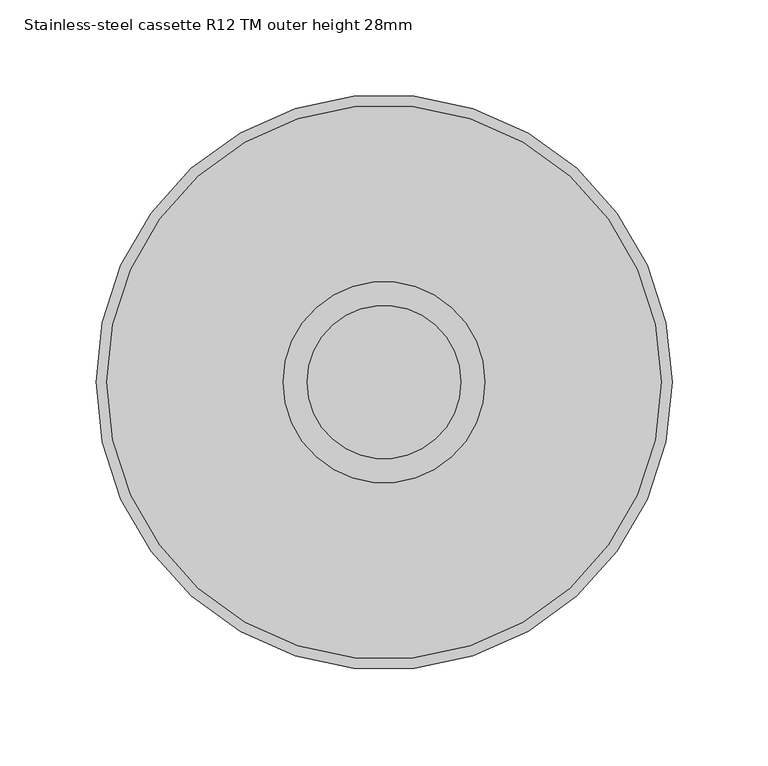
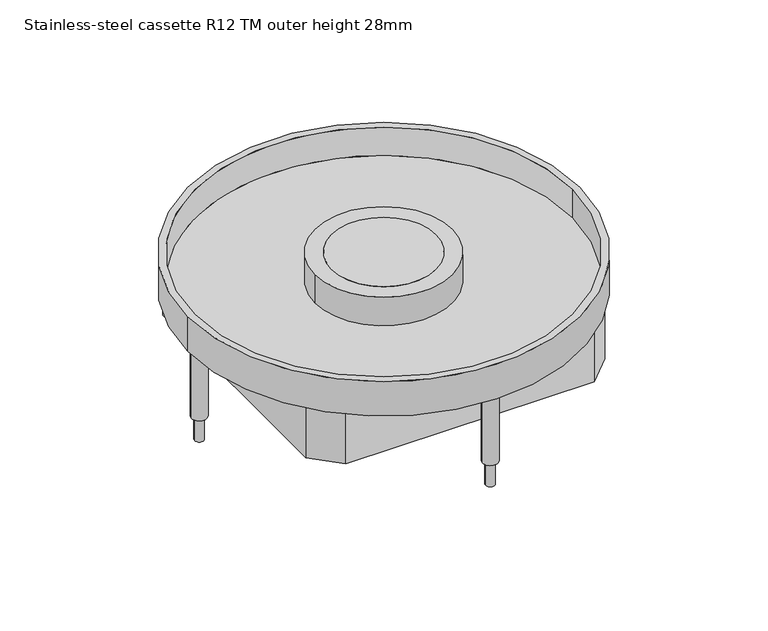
"""IFC4 building model written with IfcOpenShell, lengths in millimetres: proxy geometry, Electrical_Installation_Hager_VE-EE_EKR-Height-adjustable-stainless-steel-cassette-with-tube-mounting-set-round-for-damp-cleaned-floors : Stainless-steel cassette R12 TM outer height 28mm."""

import ifcopenshell
import ifcopenshell.guid

model = None  # the IFC model being written
_history = None  # IfcOwnerHistory: only IFC2X3 demands one
_inside = {}  # id of a spatial element -> (the spatial element, [elements in it])
_under = {}  # id of a project, library or spatial element -> (it, [spatial elements below it])
_declared = {}  # id of a project -> (the project, [libraries it declares])
_typed = {}  # id of a type object -> (the type object, [elements of that type])
_made_of = {}  # id of a material, layer set ... -> (it, [elements and type objects made of it])


def new_model(schema):
    """Start an empty IFC model of exactly this schema.

    Asked for "IFC4X3", IfcOpenShell would pick the latest addendum, in which some entities
    have other attributes; the version numbers below select the first issue.
    IFC2X3 requires an IfcOwnerHistory on every rooted entity: one is made here for all.
    """
    global model, _history
    if schema == "IFC4X3":
        model = ifcopenshell.file(schema_version=(4, 3, 0, 0))
    else:
        model = ifcopenshell.file(schema=schema)
    _inside.clear()
    _under.clear()
    _declared.clear()
    _typed.clear()
    _made_of.clear()
    _history = None
    if model.schema == "IFC2X3":
        org = make("IfcOrganization", Name="unknown")
        user = make(
            "IfcPersonAndOrganization",
            ThePerson=make("IfcPerson", FamilyName="unknown"),
            TheOrganization=org,
        )
        app = make(
            "IfcApplication",
            ApplicationDeveloper=org,
            Version="unknown",
            ApplicationFullName="unknown",
            ApplicationIdentifier="unknown",
        )
        _history = make(
            "IfcOwnerHistory",
            OwningUser=user,
            OwningApplication=app,
            ChangeAction="ADDED",
            CreationDate=0,
        )
    return model


def make(cls, **values):
    """One entity of the class cls with the attributes given. An attribute that is None is left unset."""
    return model.create_entity(
        cls, **{name: value for name, value in values.items() if value is not None}
    )


def rooted(cls, **values):
    """An entity with a GlobalId (a new one), such as an element, a storey or a relation."""
    return make(cls, GlobalId=ifcopenshell.guid.new(), OwnerHistory=_history, **values)


def si_unit(unit_type, name, prefix=None):
    """IfcSIUnit, for example si_unit("LENGTHUNIT", "METRE", prefix="MILLI")."""
    return make("IfcSIUnit", UnitType=unit_type, Prefix=prefix, Name=name)


def assignment(units):
    """IfcUnitAssignment: the units of a project."""
    return None if units is None else make("IfcUnitAssignment", Units=units)


def point(xyz):
    """IfcCartesianPoint."""
    return None if xyz is None else make("IfcCartesianPoint", Coordinates=xyz)


def direction(xyz):
    """IfcDirection."""
    return None if xyz is None else make("IfcDirection", DirectionRatios=xyz)


def frame(location, z_axis=None, x_axis=None):
    """IfcAxis2Placement3D, a coordinate frame: its origin and axes. An axis left out is left unset."""
    return make(
        "IfcAxis2Placement3D",
        Location=point(location),
        Axis=direction(z_axis),
        RefDirection=direction(x_axis),
    )


def frame_2d(location, x_axis=None):
    """IfcAxis2Placement2D, a coordinate frame in the plane: its origin and x axis."""
    return make(
        "IfcAxis2Placement2D", Location=point(location), RefDirection=direction(x_axis)
    )


def origin():
    """The frame at (0, 0, 0) with its axes left unset."""
    return frame((0.0, 0.0, 0.0))


def origin_with_axes():
    """The frame at (0, 0, 0) with the z axis (0, 0, 1) and the x axis (1, 0, 0) written out."""
    return frame((0.0, 0.0, 0.0), z_axis=(0.0, 0.0, 1.0), x_axis=(1.0, 0.0, 0.0))


def origin_2d():
    """The frame at (0, 0) in the plane with its x axis left unset."""
    return frame_2d((0.0, 0.0))


def place(relative_to, where):
    """IfcLocalPlacement: puts the frame where relative to a parent placement (None: the world)."""
    return make(
        "IfcLocalPlacement", PlacementRelTo=relative_to, RelativePlacement=where
    )


def context(
    kind, dimensions, precision=None, world=None, true_north=None, identifier=None
):
    """IfcGeometricRepresentationContext, for example the 3D "Model" context."""
    return make(
        "IfcGeometricRepresentationContext",
        ContextIdentifier=identifier,
        ContextType=kind,
        CoordinateSpaceDimension=dimensions,
        Precision=precision,
        WorldCoordinateSystem=world,
        TrueNorth=true_north,
    )


def project(units=None, contexts=None):
    """IfcProject with its units and contexts."""
    return rooted(
        "IfcProject",
        Name="project",
        RepresentationContexts=contexts,
        UnitsInContext=assignment(units),
    )


def spatial(cls, under=None, at=None, **own):
    """A site, building, storey or space (cls), placed at a placement, below another one or the project."""
    s = rooted(cls, ObjectPlacement=at, **own)
    if under is not None:
        _under.setdefault(under.id(), (under, []))[1].append(s)
    return s


def polyline(points):
    """IfcPolyline through the points."""
    return make("IfcPolyline", Points=[point(p) for p in points])


def circle_curve(where, radius):
    """IfcCircle in the frame where."""
    return make("IfcCircle", Position=where, Radius=radius)


def trimmed(basis, trim1, trim2, sense, master):
    """IfcTrimmedCurve: the piece of a basis curve between two trims."""
    return make(
        "IfcTrimmedCurve",
        BasisCurve=basis,
        Trim1=trim1,
        Trim2=trim2,
        SenseAgreement=sense,
        MasterRepresentation=master,
    )


def segment(curve, same_sense, transition):
    """IfcCompositeCurveSegment."""
    return make(
        "IfcCompositeCurveSegment",
        Transition=transition,
        SameSense=same_sense,
        ParentCurve=curve,
    )


def composite_curve(segments, self_intersect=None):
    """IfcCompositeCurve: segments joined end to end."""
    return make("IfcCompositeCurve", Segments=segments, SelfIntersect=self_intersect)


def outline(outer, holes=None, kind="AREA"):
    """IfcArbitraryClosedProfileDef: a profile drawn as a closed curve; with holes, ...WithVoids."""
    if holes is None:
        return make("IfcArbitraryClosedProfileDef", ProfileType=kind, OuterCurve=outer)
    return make(
        "IfcArbitraryProfileDefWithVoids",
        ProfileType=kind,
        OuterCurve=outer,
        InnerCurves=holes,
    )


def extrude(swept, where, along, depth):
    """IfcExtrudedAreaSolid: the profile swept, set in the frame where, extruded along a direction by depth."""
    return make(
        "IfcExtrudedAreaSolid",
        SweptArea=swept,
        Position=where,
        ExtrudedDirection=direction(along),
        Depth=depth,
    )


def shape(context_of_items, identifier, shape_type, items):
    """IfcShapeRepresentation: the items that make up one representation, for example the "Body"."""
    return make(
        "IfcShapeRepresentation",
        ContextOfItems=context_of_items,
        RepresentationIdentifier=identifier,
        RepresentationType=shape_type,
        Items=items,
    )


def source(mapping_origin, context_of_items, identifier, shape_type, items):
    """IfcRepresentationMap: a shape defined once, which mapped items show again and again."""
    return make(
        "IfcRepresentationMap",
        MappingOrigin=mapping_origin,
        MappedRepresentation=shape(context_of_items, identifier, shape_type, items),
    )


def transform(
    local_origin,
    x_axis=None,
    y_axis=None,
    z_axis=None,
    scale=None,
    scale2=None,
    scale3=None,
    uniform=True,
):
    """IfcCartesianTransformationOperator3D, or its non-uniform kind. x_axis, y_axis, z_axis: its Axis1, 2, 3."""
    if uniform:
        return make(
            "IfcCartesianTransformationOperator3D",
            Axis1=direction(x_axis),
            Axis2=direction(y_axis),
            LocalOrigin=point(local_origin),
            Scale=scale,
            Axis3=direction(z_axis),
        )
    return make(
        "IfcCartesianTransformationOperator3DnonUniform",
        Axis1=direction(x_axis),
        Axis2=direction(y_axis),
        LocalOrigin=point(local_origin),
        Scale=scale,
        Axis3=direction(z_axis),
        Scale2=scale2,
        Scale3=scale3,
    )


def mapped(mapping_source, mapping_target):
    """IfcMappedItem: shows the shape of a source again, moved by a transform."""
    return make(
        "IfcMappedItem", MappingSource=mapping_source, MappingTarget=mapping_target
    )


def made_of(thing, what):
    """Note that an element or type object is made of a material, layer set ...; save() writes the relation."""
    if what is not None:
        _made_of.setdefault(what.id(), (what, []))[1].append(thing)
    return thing


def element(
    cls,
    number,
    at=None,
    inside=None,
    cuts=None,
    type_object=None,
    material=None,
    context=None,
    identifier="Body",
    shape_type=None,
    held_by="IfcProductDefinitionShape",
    body=None,
    shapes=None,
    **own,
):
    """One element of the class cls, such as IfcWall. Its Tag is "e" and its number.

    at: its placement. inside: the storey or other place that contains it. cuts: it is an
    opening in that element (IfcRelVoidsElement). A single representation is given by context,
    identifier, shape_type and body (its items); several are given by shapes. held_by: the class
    of the entity that holds the representations. save() writes the other relations.
    """
    e = rooted(cls, Tag="e%d" % number, ObjectPlacement=at, **own)
    if body is not None:
        shapes = [shape(context, identifier, shape_type, body)]
    if shapes is not None:
        e.Representation = make(held_by, Representations=shapes)
    if inside is not None:
        _inside.setdefault(inside.id(), (inside, []))[1].append(e)
    if cuts is not None:
        rooted(
            "IfcRelVoidsElement", RelatingBuildingElement=cuts, RelatedOpeningElement=e
        )
    if type_object is not None:
        _typed.setdefault(type_object.id(), (type_object, []))[1].append(e)
    return made_of(e, material)


def aggregate(whole, parts):
    """IfcRelAggregates: a whole, such as a stair, and the parts it consists of."""
    return rooted("IfcRelAggregates", RelatingObject=whole, RelatedObjects=parts)


def save(model, path):
    """Write the relations noted so far, then the file.

    IfcRelAggregates (storeys below a building ...), IfcRelContainedInSpatialStructure (elements
    in a storey), IfcRelDefinesByType, IfcRelAssociatesMaterial and IfcRelDeclares: one each for
    every whole, place, type object, material and project.
    """
    for whole, parts in _under.values():
        aggregate(whole, parts)
    for where, things in _inside.values():
        rooted(
            "IfcRelContainedInSpatialStructure",
            RelatedElements=things,
            RelatingStructure=where,
        )
    for kind, things in _typed.values():
        rooted("IfcRelDefinesByType", RelatedObjects=things, RelatingType=kind)
    for what, things in _made_of.values():
        rooted("IfcRelAssociatesMaterial", RelatedObjects=things, RelatingMaterial=what)
    for by, libraries in _declared.values():
        rooted("IfcRelDeclares", RelatingContext=by, RelatedDefinitions=libraries)
    model.write(path)


def plane_surface(at):
    """IfcPlane: the flat surface through the origin of the frame at, square to its z axis."""
    return make("IfcPlane", Position=at)


def cylinder_surface(at, radius):
    """IfcCylindricalSurface: all points at the distance radius from the z axis of the frame at."""
    return make("IfcCylindricalSurface", Position=at, Radius=radius)


def revolved_surface(curve, axis_point, axis_direction):
    """IfcSurfaceOfRevolution: the curve turned about the line through axis_point along axis_direction."""
    return make(
        "IfcSurfaceOfRevolution",
        SweptCurve=make("IfcArbitraryOpenProfileDef", ProfileType="CURVE", Curve=curve),
        AxisPosition=make("IfcAxis1Placement", Location=point(axis_point), Axis=direction(axis_direction)),
    )


def advanced_brep(points, edges, surfaces, faces):
    """IfcAdvancedBrep: a solid bounded by faces that lie on surfaces and meet in shared edges.

    An edge is (start, end): straight between two places in points (the first is 0);
    or (start, end, curve); or (start, end, curve, False) where it runs against its curve.
    A face is (place in surfaces, loops), or (place, loops, False) where it looks against
    its surface's normal. A loop lists edges by number (the first is 1), with a minus sign
    where the edge is run from its end to its start. The first loop is the outer one.
    """
    corners = [point(p) for p in points]
    vertices = [make("IfcVertexPoint", VertexGeometry=c) for c in corners]
    made = []
    for start, end, *more in edges:
        made.append(
            make(
                "IfcEdgeCurve",
                EdgeStart=vertices[start],
                EdgeEnd=vertices[end],
                EdgeGeometry=more[0] if more else make("IfcPolyline", Points=[corners[start], corners[end]]),
                SameSense=more[1] if len(more) > 1 else True,
            )
        )
    hull = []
    for where, loops, *sense in faces:
        bounds = []
        for j, loop in enumerate(loops):
            ring = [make("IfcOrientedEdge", EdgeElement=made[abs(k) - 1], Orientation=k > 0) for k in loop]
            bounds.append(
                make(
                    "IfcFaceOuterBound" if j == 0 else "IfcFaceBound",
                    Bound=make("IfcEdgeLoop", EdgeList=ring),
                    Orientation=True,
                )
            )
        hull.append(make("IfcAdvancedFace", Bounds=bounds, FaceSurface=surfaces[where], SameSense=sense[0] if sense else True))
    return make("IfcAdvancedBrep", Outer=make("IfcClosedShell", CfsFaces=hull))


def stainless_steel_cassette_r12_tm_outer_height_28mm_8c430b26(model_context):
    return source(origin(), model_context, "Body", "SolidModel", [
        extrude(outline(composite_curve([segment(trimmed(circle_curve(origin_2d(), 40.0), [point((-40.0, 0.0))], [point((40.0, 0.0))], False, "CARTESIAN"), True, "CONTINUOUS"), segment(trimmed(circle_curve(origin_2d(), 40.0), [point((40.0, 0.0))], [point((-40.0, 0.0))], False, "CARTESIAN"), True, "CONTINUOUS")], self_intersect=False)), origin_with_axes(), (0.0, 0.0, 1.0), 2.011943),
        advanced_brep(
        [(-52.5, 0.0, 2.011943), (52.5, 0.0, 2.011943), (-40.0, 0.0, 2.011943), (40.0, 0.0, 2.011943), (-52.5, 0.0, -20.988057), (52.5, 0.0, -20.988057), (-40.0, 0.0, -20.988057), (40.0, 0.0, -20.988057), (-52.5, 0.0, 0.0), (52.5, 0.0, 0.0), (-40.0, 0.0, 0.0), (40.0, 0.0, 0.0)],
        [
            (0, 1, circle_curve(frame((0.0, 0.0, 2.011943), z_axis=(0.0, 0.0, 1.0), x_axis=(1.0, 0.0, 0.0)), 52.5)),
            (1, 0, circle_curve(frame((0.0, 0.0, 2.011943), z_axis=(0.0, 0.0, 1.0), x_axis=(1.0, 0.0, 0.0)), 52.5)),
            (2, 3, circle_curve(frame((0.0, 0.0, 2.011943), z_axis=(0.0, 0.0, -1.0), x_axis=(1.0, 0.0, 0.0)), 40.0)),
            (3, 2, circle_curve(frame((0.0, 0.0, 2.011943), z_axis=(0.0, 0.0, -1.0), x_axis=(1.0, 0.0, 0.0)), 40.0)),
            (4, 5, circle_curve(frame((0.0, 0.0, -20.988057), z_axis=(0.0, 0.0, -1.0), x_axis=(1.0, 0.0, 0.0)), 52.5)),
            (5, 4, circle_curve(frame((0.0, 0.0, -20.988057), z_axis=(0.0, 0.0, -1.0), x_axis=(1.0, 0.0, 0.0)), 52.5)),
            (6, 7, circle_curve(frame((0.0, 0.0, -20.988057), z_axis=(0.0, 0.0, 1.0), x_axis=(1.0, 0.0, 0.0)), 40.0)),
            (7, 6, circle_curve(frame((0.0, 0.0, -20.988057), z_axis=(0.0, 0.0, 1.0), x_axis=(1.0, 0.0, 0.0)), 40.0)),
            (0, 8),
            (8, 4),
            (5, 9),
            (9, 1),
            (2, 10),
            (10, 6),
            (7, 11),
            (11, 3),
        ],
        [
            plane_surface(frame((52.5, 0.0, 2.011943), z_axis=(0.0, 0.0, 1.0), x_axis=(0.0, 1.0, 0.0))),
            plane_surface(frame((52.5, 0.0, -20.988057), z_axis=(0.0, 0.0, -1.0), x_axis=(0.0, -1.0, 0.0))),
            cylinder_surface(frame((0.0, 0.0, -20.988057), z_axis=(0.0, 0.0, 1.0), x_axis=(1.0, 0.0, 0.0)), 52.5),
            revolved_surface(polyline([(40.0, 0.0, -20.988057), (40.0, 0.0, 2.011943)]), (0.0, 0.0, 0.0), (0.0, 0.0, -1.0)),
        ],
        [
            (0, [[1, 2], [3, 4]]),
            (1, [[5, 6], [7, 8]]),
            (2, [[-1, 9, 10, -6, 11, 12]]),
            (2, [[-2, -12, -11, -5, -10, -9]]),
            (3, [[-3, 13, 14, -8, 15, 16]]),
            (3, [[-4, -16, -15, -7, -14, -13]]),
        ],
    ),
        extrude(outline(composite_curve([segment(trimmed(circle_curve(frame_2d((-141.3, 0.0)), 3.5), [point((-144.8, 0.0))], [point((-137.8, 0.0))], False, "CARTESIAN"), True, "CONTINUOUS"), segment(trimmed(circle_curve(frame_2d((-141.3, 0.0)), 3.5), [point((-137.8, 0.0))], [point((-144.8, 0.0))], False, "CARTESIAN"), True, "CONTINUOUS")], self_intersect=False)), frame((0.0, 0.0, -100.0), z_axis=(0.0, 0.0, 1.0), x_axis=(1.0, 0.0, 0.0)), (0.0, 0.0, 1.0), 74.011943),
        extrude(outline(composite_curve([segment(trimmed(circle_curve(frame_2d((0.0, 141.3)), 3.5), [point((-3.5, 141.3))], [point((3.5, 141.3))], False, "CARTESIAN"), True, "CONTINUOUS"), segment(trimmed(circle_curve(frame_2d((0.0, 141.3)), 3.5), [point((3.5, 141.3))], [point((-3.5, 141.3))], False, "CARTESIAN"), True, "CONTINUOUS")], self_intersect=False)), frame((0.0, 0.0, -100.0), z_axis=(0.0, 0.0, 1.0), x_axis=(1.0, 0.0, 0.0)), (0.0, 0.0, 1.0), 74.011943),
        extrude(outline(composite_curve([segment(trimmed(circle_curve(frame_2d((141.3, 0.0)), 3.548869), [point((137.751131, 0.0))], [point((144.848869, 0.0))], False, "CARTESIAN"), True, "CONTINUOUS"), segment(trimmed(circle_curve(frame_2d((141.3, 0.0)), 3.548869), [point((144.848869, 0.0))], [point((137.751131, 0.0))], False, "CARTESIAN"), True, "CONTINUOUS")], self_intersect=False)), frame((0.0, 0.0, -100.0), z_axis=(0.0, 0.0, 1.0), x_axis=(1.0, 0.0, 0.0)), (0.0, 0.0, 1.0), 74.011943),
        extrude(outline(composite_curve([segment(trimmed(circle_curve(frame_2d((0.0, -141.3)), 3.5), [point((-3.5, -141.3))], [point((3.5, -141.3))], False, "CARTESIAN"), True, "CONTINUOUS"), segment(trimmed(circle_curve(frame_2d((0.0, -141.3)), 3.5), [point((3.5, -141.3))], [point((-3.5, -141.3))], False, "CARTESIAN"), True, "CONTINUOUS")], self_intersect=False)), frame((0.0, 0.0, -100.0), z_axis=(0.0, 0.0, 1.0), x_axis=(1.0, 0.0, 0.0)), (0.0, 0.0, 1.0), 74.011943),
        advanced_brep(
        [(144.5, 0.0, -20.988057), (-144.5, 0.0, -20.988057), (-40.0, 0.0, -20.988057), (40.0, 0.0, -20.988057), (-150.0, 0.0, -25.988057), (150.0, 0.0, -25.988057), (-40.0, 0.0, -25.988057), (40.0, 0.0, -25.988057), (-150.0, 0.0, 2.011943), (150.0, 0.0, 2.011943), (-144.5, 0.0, 2.011943), (144.5, 0.0, 2.011943)],
        [
            (0, 1, circle_curve(frame((0.0, 0.0, -20.988057), z_axis=(0.0, 0.0, 1.0), x_axis=(1.0, 0.0, 0.0)), 144.5)),
            (1, 0, circle_curve(frame((0.0, 0.0, -20.988057), z_axis=(0.0, 0.0, 1.0), x_axis=(1.0, 0.0, 0.0)), 144.5)),
            (2, 3, circle_curve(frame((0.0, 0.0, -20.988057), z_axis=(0.0, 0.0, -1.0), x_axis=(1.0, 0.0, 0.0)), 40.0)),
            (3, 2, circle_curve(frame((0.0, 0.0, -20.988057), z_axis=(0.0, 0.0, -1.0), x_axis=(1.0, 0.0, 0.0)), 40.0)),
            (4, 5, circle_curve(frame((0.0, 0.0, -25.988057), z_axis=(0.0, 0.0, -1.0), x_axis=(1.0, 0.0, 0.0)), 150.0)),
            (5, 4, circle_curve(frame((0.0, 0.0, -25.988057), z_axis=(0.0, 0.0, -1.0), x_axis=(1.0, 0.0, 0.0)), 150.0)),
            (6, 7, circle_curve(frame((0.0, 0.0, -25.988057), z_axis=(0.0, 0.0, 1.0), x_axis=(1.0, 0.0, 0.0)), 40.0)),
            (7, 6, circle_curve(frame((0.0, 0.0, -25.988057), z_axis=(0.0, 0.0, 1.0), x_axis=(1.0, 0.0, 0.0)), 40.0)),
            (8, 9, circle_curve(frame((0.0, 0.0, 2.011943), z_axis=(0.0, 0.0, 1.0), x_axis=(1.0, 0.0, 0.0)), 150.0)),
            (9, 8, circle_curve(frame((0.0, 0.0, 2.011943), z_axis=(0.0, 0.0, 1.0), x_axis=(1.0, 0.0, 0.0)), 150.0)),
            (10, 11, circle_curve(frame((0.0, 0.0, 2.011943), z_axis=(0.0, 0.0, -1.0), x_axis=(1.0, 0.0, 0.0)), 144.5)),
            (11, 10, circle_curve(frame((0.0, 0.0, 2.011943), z_axis=(0.0, 0.0, -1.0), x_axis=(1.0, 0.0, 0.0)), 144.5)),
            (8, 4),
            (5, 9),
            (10, 1),
            (0, 11),
            (2, 6),
            (7, 3),
        ],
        [
            plane_surface(frame((144.5, 0.0, -20.988057), z_axis=(0.0, 0.0, 1.0), x_axis=(0.0, 1.0, 0.0))),
            plane_surface(frame((144.5, 0.0, -25.988057), z_axis=(0.0, 0.0, -1.0), x_axis=(0.0, -1.0, 0.0))),
            plane_surface(frame((150.0, 0.0, 2.011943), z_axis=(0.0, 0.0, 1.0), x_axis=(0.0, 1.0, 0.0))),
            cylinder_surface(frame((0.0, 0.0, -25.988057), z_axis=(0.0, 0.0, 1.0), x_axis=(1.0, 0.0, 0.0)), 150.0),
            revolved_surface(polyline([(144.5, 0.0, -20.988057), (144.5, 0.0, 2.011943)]), (0.0, 0.0, 0.0), (0.0, 0.0, -1.0)),
            revolved_surface(polyline([(40.0, 0.0, -25.988057), (40.0, 0.0, -20.988057)]), (0.0, 0.0, 0.0), (0.0, 0.0, -1.0)),
        ],
        [
            (0, [[1, 2], [3, 4]]),
            (1, [[5, 6], [7, 8]]),
            (2, [[9, 10], [11, 12]]),
            (3, [[-9, 13, -6, 14]]),
            (3, [[-10, -14, -5, -13]]),
            (4, [[-11, 15, -1, 16]]),
            (4, [[-12, -16, -2, -15]]),
            (5, [[-3, 17, -8, 18]]),
            (5, [[-4, -18, -7, -17]]),
        ],
    ),
        extrude(outline(polyline([(94.9818914, 114.5), (114.5, 94.9818914), (114.5, -94.9818914), (94.9818914, -114.5), (-94.9818914, -114.5), (-114.5, -94.9818914), (-114.5, 94.9818914), (-94.9818914, 114.5), (94.9818914, 114.5)]), holes=[polyline([(-111.5, 93.8602374), (-111.5, -93.8602374), (-93.8602374, -111.5), (93.8602374, -111.5), (111.5, -93.8602374), (111.5, 93.8602374), (93.8602374, 111.5), (-93.8602374, 111.5), (-111.5, 93.8602374)])]), frame((0.0, 0.0, -66.9261016), z_axis=(0.0, 0.0, 1.0), x_axis=(1.0, 0.0, 0.0)), (0.0, 0.0, 1.0), 40.9380446),
        extrude(outline(composite_curve([segment(trimmed(circle_curve(frame_2d((0.0, 141.3)), 5.9738904), [point((-5.9738904, 141.3))], [point((5.9738904, 141.3))], False, "CARTESIAN"), True, "CONTINUOUS"), segment(trimmed(circle_curve(frame_2d((0.0, 141.3)), 5.9738904), [point((5.9738904, 141.3))], [point((-5.9738904, 141.3))], False, "CARTESIAN"), True, "CONTINUOUS")], self_intersect=False)), frame((0.0, 0.0, -81.0371838), z_axis=(0.0, 0.0, 1.0), x_axis=(1.0, 0.0, 0.0)), (0.0, 0.0, 1.0), 55.0491267),
        extrude(outline(composite_curve([segment(trimmed(circle_curve(frame_2d((141.3, 0.0)), 6.0), [point((135.3, 0.0))], [point((147.3, 0.0))], False, "CARTESIAN"), True, "CONTINUOUS"), segment(trimmed(circle_curve(frame_2d((141.3, 0.0)), 6.0), [point((147.3, 0.0))], [point((135.3, 0.0))], False, "CARTESIAN"), True, "CONTINUOUS")], self_intersect=False)), frame((0.0, 0.0, -81.0371838), z_axis=(0.0, 0.0, 1.0), x_axis=(1.0, 0.0, 0.0)), (0.0, 0.0, 1.0), 55.0491267),
        extrude(outline(composite_curve([segment(trimmed(circle_curve(frame_2d((0.0, -141.3)), 6.0), [point((-6.0, -141.3))], [point((6.0, -141.3))], False, "CARTESIAN"), True, "CONTINUOUS"), segment(trimmed(circle_curve(frame_2d((0.0, -141.3)), 6.0), [point((6.0, -141.3))], [point((-6.0, -141.3))], False, "CARTESIAN"), True, "CONTINUOUS")], self_intersect=False)), frame((0.0, 0.0, -81.0371838), z_axis=(0.0, 0.0, 1.0), x_axis=(1.0, 0.0, 0.0)), (0.0, 0.0, 1.0), 55.0491267),
        extrude(outline(composite_curve([segment(trimmed(circle_curve(frame_2d((-141.3, 0.0)), 6.0), [point((-147.3, 0.0))], [point((-135.3, 0.0))], False, "CARTESIAN"), True, "CONTINUOUS"), segment(trimmed(circle_curve(frame_2d((-141.3, 0.0)), 6.0), [point((-135.3, 0.0))], [point((-147.3, 0.0))], False, "CARTESIAN"), True, "CONTINUOUS")], self_intersect=False)), frame((0.0, 0.0, -81.0371838), z_axis=(0.0, 0.0, 1.0), x_axis=(1.0, 0.0, 0.0)), (0.0, 0.0, 1.0), 55.0491267),
    ])


if __name__ == "__main__":
    model = new_model("IFC4")
    model_context = context("Model", 3, world=origin())
    ifc_project = project(units=[si_unit("LENGTHUNIT", "METRE", prefix="MILLI")], contexts=[model_context])
    site = spatial("IfcSite", under=ifc_project)
    building = spatial("IfcBuilding", under=site)
    placement = place(None, origin())
    stainless_steel_cassette_r12_tm_outer_height_28mm_shape = stainless_steel_cassette_r12_tm_outer_height_28mm_8c430b26(model_context)
    element("IfcBuildingElementProxy", 1, Name="Electrical_Installation_Hager_VE-EE_EKR-Height-adjustable-stainless-steel-cassette-with-tube-mounting-set-round-for-damp-cleaned-floors : Stainless-steel cassette R12 TM outer height 28mm", ObjectType="Electrical_Installation_Hager_VE-EE_EKR-Height-adjustable-stainless-steel-cassette-with-tube-mounting-set-round-for-damp-cleaned-floors : Stainless-steel cassette R12 TM outer height 28mm", at=placement, inside=building, context=model_context, shape_type="MappedRepresentation", body=[
        mapped(stainless_steel_cassette_r12_tm_outer_height_28mm_shape, transform((0.0, 0.0, 0.0), x_axis=(1.0, 0.0, 0.0), y_axis=(0.0, 1.0, 0.0), z_axis=(0.0, 0.0, 1.0))),
    ])
    save(model, "model.ifc")
